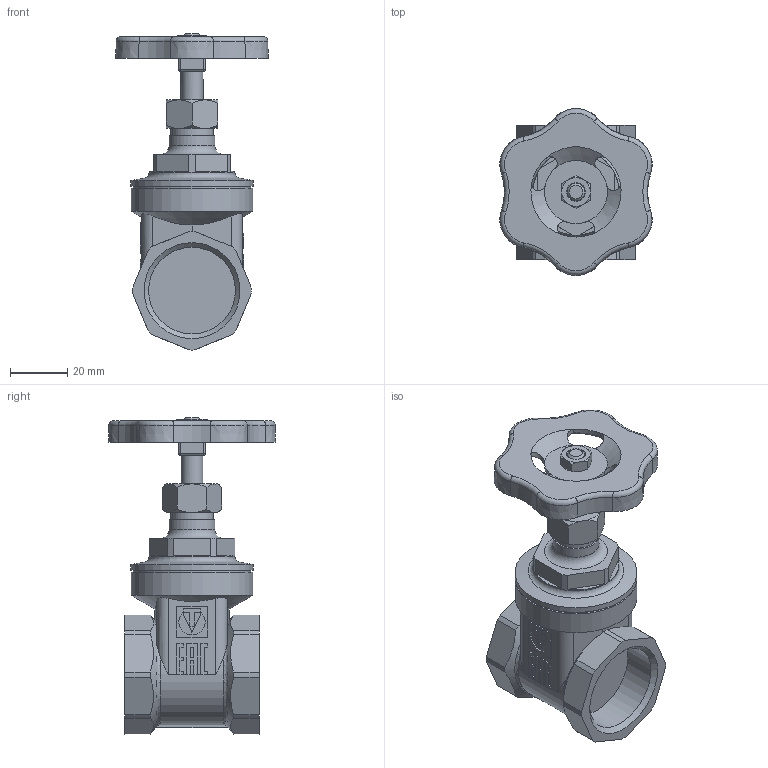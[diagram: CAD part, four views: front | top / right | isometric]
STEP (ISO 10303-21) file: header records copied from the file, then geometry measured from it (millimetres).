
FILE_DESCRIPTION(('STEP AP203'), '1');
FILE_NAME('VT.012.G.06', '', ('UNSPECIFIED'), ('UNSPECIFIED'), 'C3D Converter', 'C3D Toolkit', '');
FILE_SCHEMA(('CONFIG_CONTROL_DESIGN'));
Length unit declared in the file: millimetre
Products named in the file (1): ВР.491212.006.000 СБ
Bounding box: 53.24 x 58.39 x 110.35 mm (x, y, z)
Volume: 77744.8 mm3; surface area: 24460.2 mm2
Topology: 1 solids, 1 shells, 458 faces, 1199 edges, 762 vertices
Faces by surface type: plane 201, extrusion 87, cylinder 78, cone 61, torus 27, sphere 4
Full cylindrical faces by diameter (mm): 6 x1, 7.7 x1, 8 x1, 15 x1, 16 x1, 30 x1, 30.292 x2, 41 x1, 42.5 x1, 42.7 x1
Entity records: 17967 total; most frequent: CARTESIAN_POINT 7154, ORIENTED_EDGE 2334, DIRECTION 1986, EDGE_CURVE 1167, VERTEX_POINT 760, VECTOR 678, AXIS2_PLACEMENT_3D 654, LINE 591
